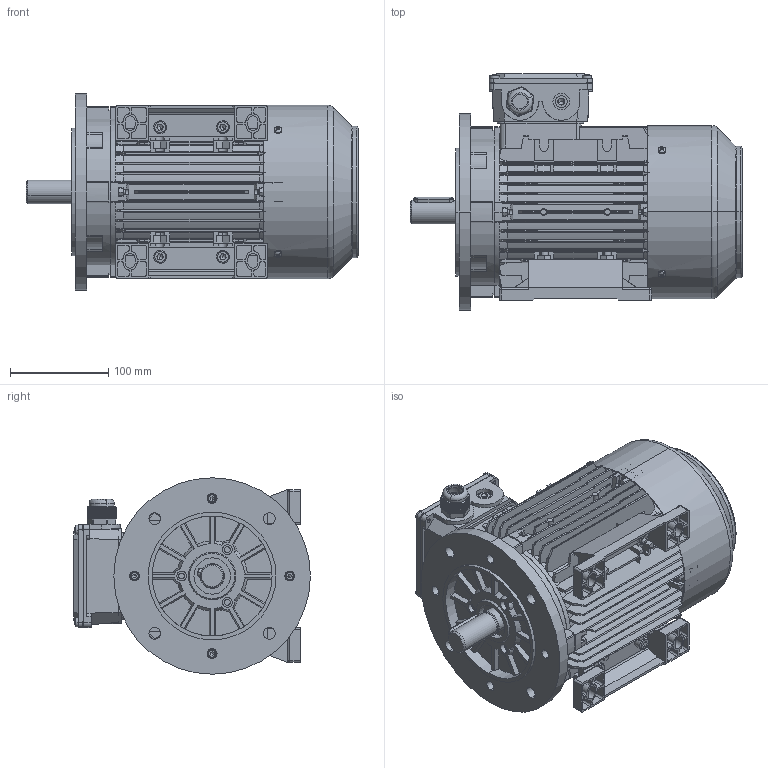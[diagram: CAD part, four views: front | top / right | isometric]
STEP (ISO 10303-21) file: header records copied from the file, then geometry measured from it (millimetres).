
FILE_DESCRIPTION (( 'STEP AP203' ), '1' );
FILE_NAME ('T90L B35蚾饜芞.STEP', '2015-04-08T07:24:15', ( 'USER' ), ( 'MS' ), 'SwSTEP 2.0', 'SolidWorks 2008', '' );
FILE_SCHEMA (( 'CONFIG_CONTROL_DESIGN' ));
Products named in the file (18): TA90B5法兰1_默认; Hexagon socket head cap screws GB_GB_FASTENER_SCREWS_HSHCS M8X25-N; T90L底脚_默认; Hexagon nuts grade C GB_GB_FASTENER_NUT_SNC1 M8-N; 新接线盒座80-100_默认; 新接线盒盖80-100_默认; Cross recessed thread forming screws GB_GB_CROSS_SCREWS_TYPE138 M5X12-N; T90L B35蚾饜芞; T90L机壳_默认; TA90风罩_默认; TA90后盖1_默认; 90风叶_默认; T90L转轴_默认; Plain parallel keys_GB_CONNECTING_PIECE_KEYS_CSK 8X40; Cross recessed thread forming screws GB_GB_CROSS_SCREWS_TYPE138 M4X12-N; Hexagon socket head cap screws GB_GB_FASTENER_SCREWS_HSHCS M5X25-N; Hexagon nuts grade C GB_GB_FASTENER_NUT_SNC1 M5-N; 80-100出线螺套_默认
Assembly tree (44 placements, depth 2):
  T90L B35蚾饜芞
    Hexagon socket head cap screws GB_GB_FASTENER_SCREWS_HSHCS M5X25-N  x8
    Hexagon nuts grade C GB_GB_FASTENER_NUT_SNC1 M5-N  x8
    Hexagon nuts grade C GB_GB_FASTENER_NUT_SNC1 M8-N  x4
    Plain parallel keys_GB_CONNECTING_PIECE_KEYS_CSK 8X40
    Cross recessed thread forming screws GB_GB_CROSS_SCREWS_TYPE138 M5X12-N  x4
    T90L转轴_默认
    Cross recessed thread forming screws GB_GB_CROSS_SCREWS_TYPE138 M4X12-N  x4
    T90L机壳_默认
    80-100出线螺套_默认
    新接线盒盖80-100_默认
    Hexagon socket head cap screws GB_GB_FASTENER_SCREWS_HSHCS M8X25-N  x4
    新接线盒座80-100_默认
    T90L底脚_默认  x2
    90风叶_默认
    TA90B5法兰1_默认
    TA90风罩_默认
    TA90后盖1_默认
Bounding box: 338 x 241 x 200 mm (x, y, z)
Volume: 1523385.3 mm3; surface area: 940780.5 mm2
Topology: 44 solids, 44 shells, 4150 faces, 11124 edges, 7156 vertices
Faces by surface type: plane 2515, cylinder 1124, cone 283, torus 154, sphere 64, bspline 10
Entity records: 117344 total; most frequent: CARTESIAN_POINT 28256, ORIENTED_EDGE 18858, DIRECTION 17051, EDGE_CURVE 9429, VERTEX_POINT 6106, VECTOR 5947, LINE 5947, AXIS2_PLACEMENT_3D 5552
